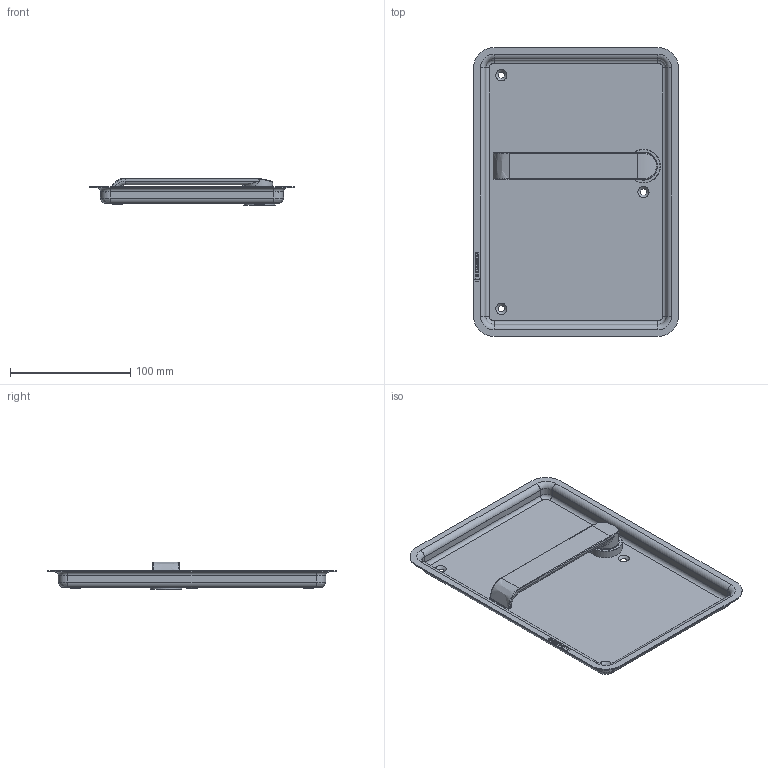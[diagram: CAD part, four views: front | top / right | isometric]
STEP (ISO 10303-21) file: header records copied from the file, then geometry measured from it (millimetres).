
FILE_DESCRIPTION(/* description */ (''),/* implementation_level */ '2;1');
FILE_NAME(/* name */ 'C:\ADSK_DMS_WS\Designs\Vorschläge\Loc Schalen\Muschel Serie 3\S3.13.D1Links\Heusser-Muschel S3.13.D1.0L.stp',/* time_stamp */ '2020-11-21T09:52:19+01:00',/* author */ ('gm'),/* organization */ (''),/* preprocessor_version */ 'ST-DEVELOPER v16.5',/* originating_system */ 'Autodesk Inventor 2017',/* authorisation */ '');
FILE_SCHEMA (('AUTOMOTIVE_DESIGN { 1 0 10303 214 3 1 1 }'));
Length unit declared in the file: millimetre
Products named in the file (1): S3.13.D1.L
Bounding box: 170 x 240 x 23 mm (x, y, z)
Volume: 67690.7 mm3; surface area: 106412.1 mm2
Topology: 1 solids, 2 shells, 304 faces, 758 edges, 480 vertices
Faces by surface type: plane 130, bspline 82, cylinder 61, cone 16, torus 15
Full cylindrical faces by diameter (mm): 1.7 x2, 6 x1, 16 x3, 18 x1, 19 x1, 19.1 x1, 22 x1, 23 x1, 23.2 x1, 24 x1, 25 x1, 26 x1, 28 x1
Entity records: 10151 total; most frequent: CARTESIAN_POINT 3017, ORIENTED_EDGE 1432, DIRECTION 1256, EDGE_CURVE 716, VERTEX_POINT 474, AXIS2_PLACEMENT_3D 431, LINE 394, VECTOR 394
